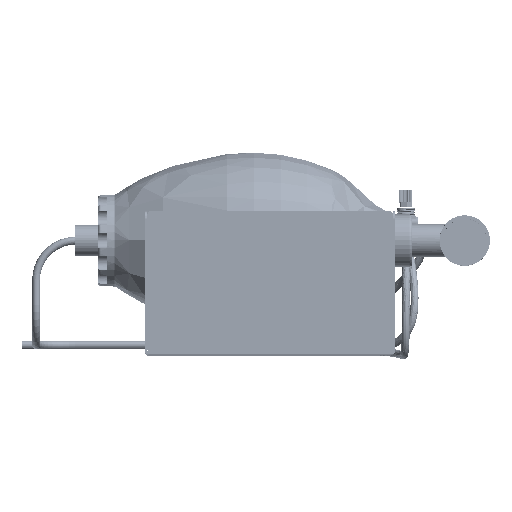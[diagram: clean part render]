
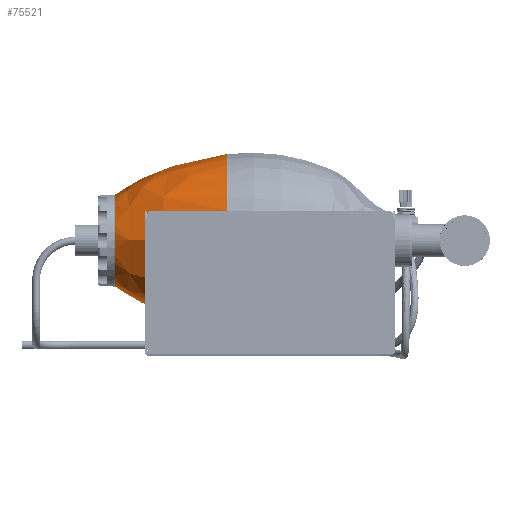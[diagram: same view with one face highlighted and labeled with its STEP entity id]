
A CAD part, top view. The second image highlights one B-rep face of the part: STEP entity #75521.
In plain terms, the highlighted free-form (B-spline) face has degree [3, 3] with [4, 4] control points.
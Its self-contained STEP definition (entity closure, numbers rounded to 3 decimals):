
#286 = DIRECTION ( 'NONE',  ( 1., 0., 0. ) ) ;
#1494 = CARTESIAN_POINT ( 'NONE',  ( -73.987, 36.994, -170.192 ) ) ;
#1621 = AXIS2_PLACEMENT_3D ( 'NONE', #46263, #5453, #103007 ) ;
#2970 = EDGE_CURVE ( 'NONE', #43777, #83718, #37506, .T. ) ;
#3094 = AXIS2_PLACEMENT_3D ( 'NONE', #89073, #33978, #286 ) ;
#4406 = DIRECTION ( 'NONE',  ( 0., 0., 1. ) ) ;
#5046 = CARTESIAN_POINT ( 'NONE',  ( -70.201, -35.101, -176.666 ) ) ;
#5453 = DIRECTION ( 'NONE',  ( 0., 0., 1. ) ) ;
#5970 = CARTESIAN_POINT ( 'NONE',  ( 0., -35.101, -176.666 ) ) ;
#6273 = AXIS2_PLACEMENT_3D ( 'NONE', #57905, #4406, #49017 ) ;
#6421 = ORIENTED_EDGE ( 'NONE', *, *, #94253, .F. ) ;
#8305 = EDGE_CURVE ( 'NONE', #85126, #50337, #9054, .T. ) ;
#8885 = B_SPLINE_CURVE_WITH_KNOTS ( 'NONE', 3,
 ( #76183, #26472, #106318, #79840 ),
 .UNSPECIFIED., .F., .F.,
 ( 4, 4 ),
 ( 0., 0.978 ),
 .UNSPECIFIED. ) ;
#9054 = B_SPLINE_CURVE_WITH_KNOTS ( 'NONE', 3,
 ( #66384, #39677, #13014, #5970 ),
 .UNSPECIFIED., .F., .F.,
 ( 4, 4 ),
 ( 0., 0.978 ),
 .UNSPECIFIED. ) ;
#12924 = ORIENTED_EDGE ( 'NONE', *, *, #2970, .F. ) ;
#13014 = CARTESIAN_POINT ( 'NONE',  ( 0., -36.994, -170.192 ) ) ;
#14903 = ORIENTED_EDGE ( 'NONE', *, *, #97878, .T. ) ;
#18275 = ORIENTED_EDGE ( 'NONE', *, *, #63618, .T. ) ;
#19168 = VERTEX_POINT ( 'NONE', #73491 ) ;
#19864 =( BOUNDED_SURFACE ( )  B_SPLINE_SURFACE ( 3, 3, ( 
 ( #42335, #35178, #109718, #56319 ),
 ( #29819, #70783, #26355, #60156 ),
 ( #104194, #1494, #24538, #88506 ),
 ( #22778, #97302, #5046, #65466 ) ),
 .UNSPECIFIED., .F., .F., .F. ) 
 B_SPLINE_SURFACE_WITH_KNOTS ( ( 4, 4 ),
 ( 4, 4 ),
 ( 0., 0.978 ),
 ( 0., 1. ),
 .UNSPECIFIED. ) 
 GEOMETRIC_REPRESENTATION_ITEM ( )  RATIONAL_B_SPLINE_SURFACE ( (
 ( 1., 0.333, 0.333, 1.),
 ( 1., 0.333, 0.333, 1.),
 ( 1., 0.333, 0.333, 1.),
 ( 1., 0.333, 0.333, 1.) ) ) 
 REPRESENTATION_ITEM ( '' )  SURFACE ( )  );
#20081 = EDGE_LOOP ( 'NONE', ( #95197, #6421, #12924, #59417, #14903, #18275 ) ) ;
#22778 = CARTESIAN_POINT ( 'NONE',  ( 0., 35.101, -176.666 ) ) ;
#23106 = CARTESIAN_POINT ( 'NONE',  ( 0., -35.101, -176.666 ) ) ;
#24538 = CARTESIAN_POINT ( 'NONE',  ( -73.987, -36.994, -170.192 ) ) ;
#25780 = CARTESIAN_POINT ( 'NONE',  ( 0., 0., -176.666 ) ) ;
#26355 = CARTESIAN_POINT ( 'NONE',  ( -113.973, -56.986, -153.733 ) ) ;
#26472 = CARTESIAN_POINT ( 'NONE',  ( 0., 56.986, -153.733 ) ) ;
#29819 = CARTESIAN_POINT ( 'NONE',  ( 0., 56.986, -153.733 ) ) ;
#31100 = CARTESIAN_POINT ( 'NONE',  ( -66.064, 0., -90.841 ) ) ;
#33247 = AXIS2_PLACEMENT_3D ( 'NONE', #25780, #40019, #54239 ) ;
#33978 = DIRECTION ( 'NONE',  ( 0., 0., 1. ) ) ;
#35178 = CARTESIAN_POINT ( 'NONE',  ( -132.128, 66.064, -90.841 ) ) ;
#37506 = CIRCLE ( 'NONE', #6273, 66.064 ) ;
#37801 = CARTESIAN_POINT ( 'NONE',  ( 0., 35.101, -176.666 ) ) ;
#39677 = CARTESIAN_POINT ( 'NONE',  ( 0., -56.986, -153.733 ) ) ;
#40019 = DIRECTION ( 'NONE',  ( 0., 0., 1. ) ) ;
#42335 = CARTESIAN_POINT ( 'NONE',  ( 0., 66.064, -90.841 ) ) ;
#43777 = VERTEX_POINT ( 'NONE', #83607 ) ;
#46263 = CARTESIAN_POINT ( 'NONE',  ( 0., 0., -176.666 ) ) ;
#49017 = DIRECTION ( 'NONE',  ( 1., 0., 0. ) ) ;
#50337 = VERTEX_POINT ( 'NONE', #23106 ) ;
#50674 = CIRCLE ( 'NONE', #3094, 66.064 ) ;
#51212 = CIRCLE ( 'NONE', #1621, 35.101 ) ;
#54239 = DIRECTION ( 'NONE',  ( 1., 0., 0. ) ) ;
#56319 = CARTESIAN_POINT ( 'NONE',  ( 0., -66.064, -90.841 ) ) ;
#57905 = CARTESIAN_POINT ( 'NONE',  ( 0., 0., -90.841 ) ) ;
#59417 = ORIENTED_EDGE ( 'NONE', *, *, #91157, .T. ) ;
#60156 = CARTESIAN_POINT ( 'NONE',  ( 0., -56.986, -153.733 ) ) ;
#63618 = EDGE_CURVE ( 'NONE', #19168, #50337, #82236, .T. ) ;
#65466 = CARTESIAN_POINT ( 'NONE',  ( 0., -35.101, -176.666 ) ) ;
#66384 = CARTESIAN_POINT ( 'NONE',  ( 0., -66.064, -90.841 ) ) ;
#70783 = CARTESIAN_POINT ( 'NONE',  ( -113.973, 56.986, -153.733 ) ) ;
#73491 = CARTESIAN_POINT ( 'NONE',  ( -35.101, 0., -176.666 ) ) ;
#75521 = ADVANCED_FACE ( 'NONE', ( #93837 ), #19864, .T. ) ;
#76183 = CARTESIAN_POINT ( 'NONE',  ( 0., 66.064, -90.841 ) ) ;
#79840 = CARTESIAN_POINT ( 'NONE',  ( 0., 35.101, -176.666 ) ) ;
#82236 = CIRCLE ( 'NONE', #33247, 35.101 ) ;
#83607 = CARTESIAN_POINT ( 'NONE',  ( 0., 66.064, -90.841 ) ) ;
#83718 = VERTEX_POINT ( 'NONE', #31100 ) ;
#84560 = VERTEX_POINT ( 'NONE', #37801 ) ;
#85126 = VERTEX_POINT ( 'NONE', #100123 ) ;
#88506 = CARTESIAN_POINT ( 'NONE',  ( 0., -36.994, -170.192 ) ) ;
#89073 = CARTESIAN_POINT ( 'NONE',  ( 0., 0., -90.841 ) ) ;
#91157 = EDGE_CURVE ( 'NONE', #43777, #84560, #8885, .T. ) ;
#93837 = FACE_OUTER_BOUND ( 'NONE', #20081, .T. ) ;
#94253 = EDGE_CURVE ( 'NONE', #83718, #85126, #50674, .T. ) ;
#95197 = ORIENTED_EDGE ( 'NONE', *, *, #8305, .F. ) ;
#97302 = CARTESIAN_POINT ( 'NONE',  ( -70.201, 35.101, -176.666 ) ) ;
#97878 = EDGE_CURVE ( 'NONE', #84560, #19168, #51212, .T. ) ;
#100123 = CARTESIAN_POINT ( 'NONE',  ( 0., -66.064, -90.841 ) ) ;
#103007 = DIRECTION ( 'NONE',  ( 1., 0., 0. ) ) ;
#104194 = CARTESIAN_POINT ( 'NONE',  ( 0., 36.994, -170.192 ) ) ;
#106318 = CARTESIAN_POINT ( 'NONE',  ( 0., 36.994, -170.192 ) ) ;
#109718 = CARTESIAN_POINT ( 'NONE',  ( -132.128, -66.064, -90.841 ) ) ;
